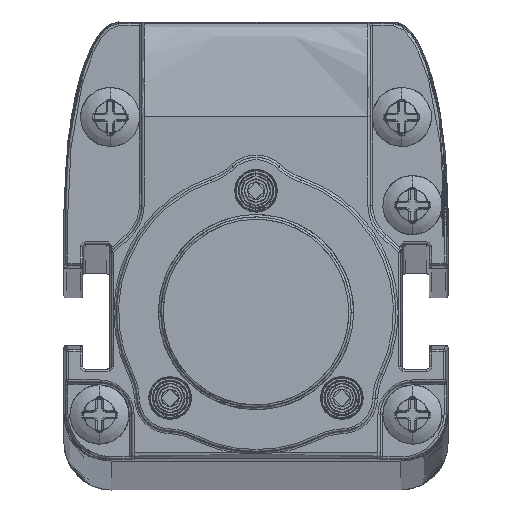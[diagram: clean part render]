
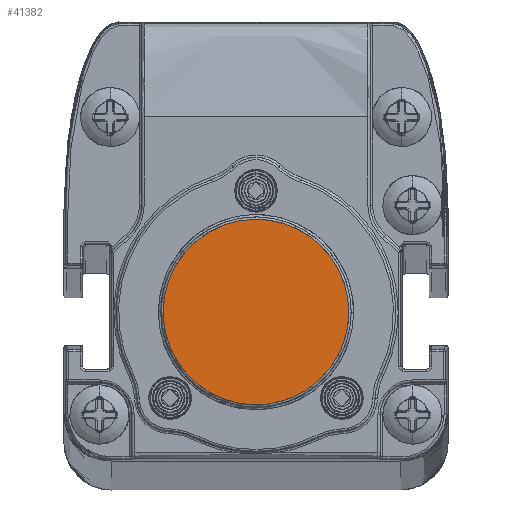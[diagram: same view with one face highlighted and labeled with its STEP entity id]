
A CAD part, top view. The second image highlights one B-rep face of the part: STEP entity #41382.
In plain terms, the highlighted planar face has unit normal (0, 0, 1).
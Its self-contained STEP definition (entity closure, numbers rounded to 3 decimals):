
#41293=CARTESIAN_POINT('',(-7.797,0.219,1433.24));
#41294=CARTESIAN_POINT('',(-7.789,0.483,1433.24));
#41295=CARTESIAN_POINT('',(-7.748,1.005,1433.24));
#41296=CARTESIAN_POINT('',(-7.607,1.783,1433.24));
#41297=CARTESIAN_POINT('',(-7.391,2.532,1433.24));
#41298=CARTESIAN_POINT('',(-7.105,3.248,1433.24));
#41299=CARTESIAN_POINT('',(-6.747,3.939,1433.24));
#41300=CARTESIAN_POINT('',(-6.328,4.583,1433.24));
#41301=CARTESIAN_POINT('',(-5.846,5.183,1433.24));
#41302=CARTESIAN_POINT('',(-5.309,5.732,1433.24));
#41303=CARTESIAN_POINT('',(-4.719,6.227,1433.24));
#41304=CARTESIAN_POINT('',(-4.076,6.666,1433.24));
#41305=CARTESIAN_POINT('',(-3.383,7.043,1433.24));
#41306=CARTESIAN_POINT('',(-2.632,7.357,1433.24));
#41307=CARTESIAN_POINT('',(-1.861,7.589,1433.24));
#41308=CARTESIAN_POINT('',(-1.065,7.741,1433.24));
#41309=CARTESIAN_POINT('',(-0.259,7.81,1433.24));
#41310=CARTESIAN_POINT('',(0.554,7.794,1433.24));
#41311=CARTESIAN_POINT('',(1.358,7.695,1433.24));
#41312=CARTESIAN_POINT('',(2.139,7.515,1433.24));
#41313=CARTESIAN_POINT('',(2.911,7.251,1433.24));
#41314=CARTESIAN_POINT('',(3.631,6.918,1433.24));
#41315=CARTESIAN_POINT('',(4.313,6.515,1433.24));
#41316=CARTESIAN_POINT('',(4.941,6.051,1433.24));
#41317=CARTESIAN_POINT('',(5.53,5.519,1433.24));
#41318=CARTESIAN_POINT('',(6.045,4.949,1433.24));
#41319=CARTESIAN_POINT('',(6.496,4.341,1433.24));
#41320=CARTESIAN_POINT('',(6.902,3.661,1433.24));
#41321=CARTESIAN_POINT('',(7.214,2.993,1433.24));
#41322=CARTESIAN_POINT('',(7.474,2.273,1433.24));
#41323=CARTESIAN_POINT('',(7.662,1.526,1433.24));
#41324=CARTESIAN_POINT('',(7.772,0.81,1433.24));
#41325=CARTESIAN_POINT('',(7.799,0.275,1433.24));
#41326=CARTESIAN_POINT('',(7.8,0.,1433.24));
#41331=CARTESIAN_POINT('',(7.8,0.,1433.24));
#41332=CARTESIAN_POINT('',(7.8,-0.28,1433.24));
#41333=CARTESIAN_POINT('',(7.77,-0.832,1433.24));
#41334=CARTESIAN_POINT('',(7.65,-1.596,1433.24));
#41335=CARTESIAN_POINT('',(7.427,-2.426,1433.24));
#41336=CARTESIAN_POINT('',(7.134,-3.186,1433.24));
#41337=CARTESIAN_POINT('',(6.763,-3.918,1433.24));
#41338=CARTESIAN_POINT('',(6.3,-4.623,1433.24));
#41339=CARTESIAN_POINT('',(5.801,-5.235,1433.24));
#41340=CARTESIAN_POINT('',(5.226,-5.808,1433.24));
#41341=CARTESIAN_POINT('',(4.602,-6.314,1433.24));
#41342=CARTESIAN_POINT('',(3.938,-6.749,1433.24));
#41343=CARTESIAN_POINT('',(3.239,-7.11,1433.24));
#41344=CARTESIAN_POINT('',(2.503,-7.402,1433.24));
#41345=CARTESIAN_POINT('',(1.743,-7.616,1433.24));
#41346=CARTESIAN_POINT('',(0.998,-7.749,1433.24));
#41347=CARTESIAN_POINT('',(0.208,-7.809,1433.24));
#41348=CARTESIAN_POINT('',(-0.551,-7.793,1433.24));
#41349=CARTESIAN_POINT('',(-1.319,-7.701,1433.24));
#41350=CARTESIAN_POINT('',(-2.074,-7.533,1433.24));
#41351=CARTESIAN_POINT('',(-2.805,-7.292,1433.24));
#41352=CARTESIAN_POINT('',(-3.508,-6.981,1433.24));
#41353=CARTESIAN_POINT('',(-4.195,-6.592,1433.24));
#41354=CARTESIAN_POINT('',(-4.852,-6.125,1433.24));
#41355=CARTESIAN_POINT('',(-5.462,-5.588,1433.24));
#41356=CARTESIAN_POINT('',(-6.011,-4.992,1433.24));
#41357=CARTESIAN_POINT('',(-6.49,-4.353,1433.24));
#41358=CARTESIAN_POINT('',(-6.909,-3.649,1433.24));
#41359=CARTESIAN_POINT('',(-7.25,-2.914,1433.24));
#41360=CARTESIAN_POINT('',(-7.51,-2.157,1433.24));
#41361=CARTESIAN_POINT('',(-7.693,-1.365,1433.24));
#41362=CARTESIAN_POINT('',(-7.793,-0.569,1433.24));
#41363=CARTESIAN_POINT('',(-7.805,-0.043,1433.24));
#41364=CARTESIAN_POINT('',(-7.797,0.219,1433.24));
#41369=VERTEX_POINT('',#41326);
#41370=VERTEX_POINT('',#41293);
#41371=CARTESIAN_POINT('',(0.,0.001,1433.24));
#41372=DIRECTION('',(0.,0.,1.));
#41373=DIRECTION('',(1.,0.,0.));
#41374=AXIS2_PLACEMENT_3D('',#41371,#41372,#41373);
#41375=PLANE('',#41374);
#41377=ORIENTED_EDGE('',*,*,#41376,.T.);
#41379=ORIENTED_EDGE('',*,*,#41378,.T.);
#41380=EDGE_LOOP('',(#41377,#41379));
#41381=FACE_OUTER_BOUND('',#41380,.F.);
#41382=ADVANCED_FACE('',(#41381),#41375,.T.);
#41327=B_SPLINE_CURVE_WITH_KNOTS('',3,(#41293,#41294,#41295,#41296,#41297,
#41298,#41299,#41300,#41301,#41302,#41303,#41304,#41305,#41306,#41307,#41308,
#41309,#41310,#41311,#41312,#41313,#41314,#41315,#41316,#41317,#41318,#41319,
#41320,#41321,#41322,#41323,#41324,#41325,#41326),.UNSPECIFIED.,.F.,.F.,(4,1,1,
1,1,1,1,1,1,1,1,1,1,1,1,1,1,1,1,1,1,1,1,1,1,1,1,1,1,1,1,4),(0.,
0.032,0.065,0.097,0.129,
0.161,0.194,0.226,0.258,
0.29,0.323,0.355,0.387,
0.419,0.452,0.484,0.516,
0.548,0.581,0.613,0.645,
0.677,0.71,0.742,0.774,
0.806,0.839,0.871,0.903,
0.935,0.968,1.),.UNSPECIFIED.);
#41365=B_SPLINE_CURVE_WITH_KNOTS('',3,(#41331,#41332,#41333,#41334,#41335,
#41336,#41337,#41338,#41339,#41340,#41341,#41342,#41343,#41344,#41345,#41346,
#41347,#41348,#41349,#41350,#41351,#41352,#41353,#41354,#41355,#41356,#41357,
#41358,#41359,#41360,#41361,#41362,#41363,#41364),.UNSPECIFIED.,.F.,.F.,(4,1,1,
1,1,1,1,1,1,1,1,1,1,1,1,1,1,1,1,1,1,1,1,1,1,1,1,1,1,1,1,4),(0.,
0.032,0.065,0.097,0.129,
0.161,0.194,0.226,0.258,
0.29,0.323,0.355,0.387,
0.419,0.452,0.484,0.516,
0.548,0.581,0.613,0.645,
0.677,0.71,0.742,0.774,
0.806,0.839,0.871,0.903,
0.935,0.968,1.),.UNSPECIFIED.);
#41376=EDGE_CURVE('',#41370,#41369,#41327,.T.);
#41378=EDGE_CURVE('',#41369,#41370,#41365,.T.);
